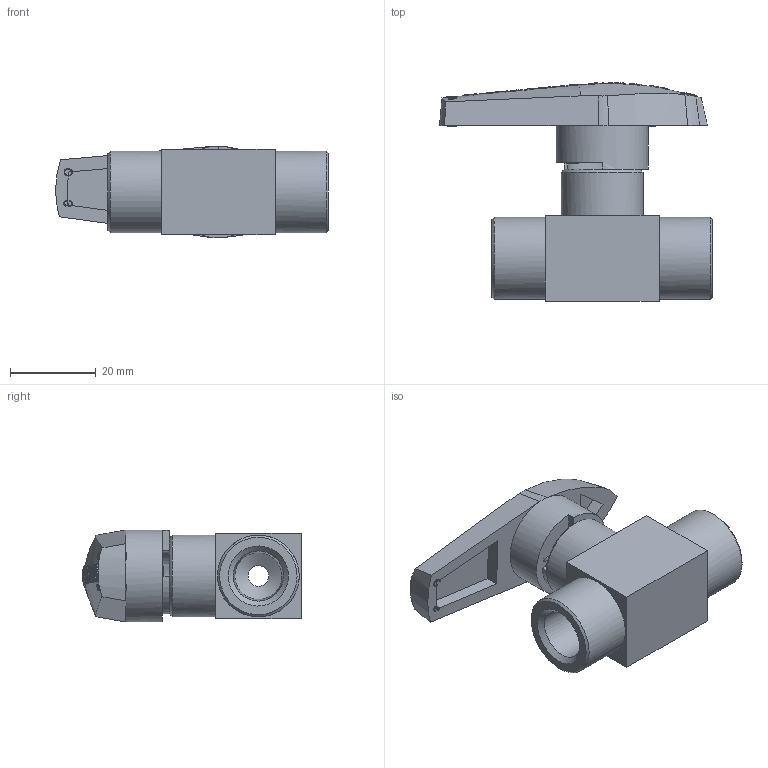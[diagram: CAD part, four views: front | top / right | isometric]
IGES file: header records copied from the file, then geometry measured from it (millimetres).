
Global section: file name: SBV120H2-F4N-S316; native system: Autodesk Inventor 2016; preprocessor: unknown; author: 이승민,,11,0; organization: 20161215.101823; date: 20161216.193320; units: millimetre
Bounding box: 63.49 x 50.87 x 21.4 mm (x, y, z)
Volume: 24872.7 mm3; surface area: 10847.5 mm2
Topology: 2 solids, 2 shells, 410 faces, 1138 edges, 759 vertices
Faces by surface type: bspline 410
